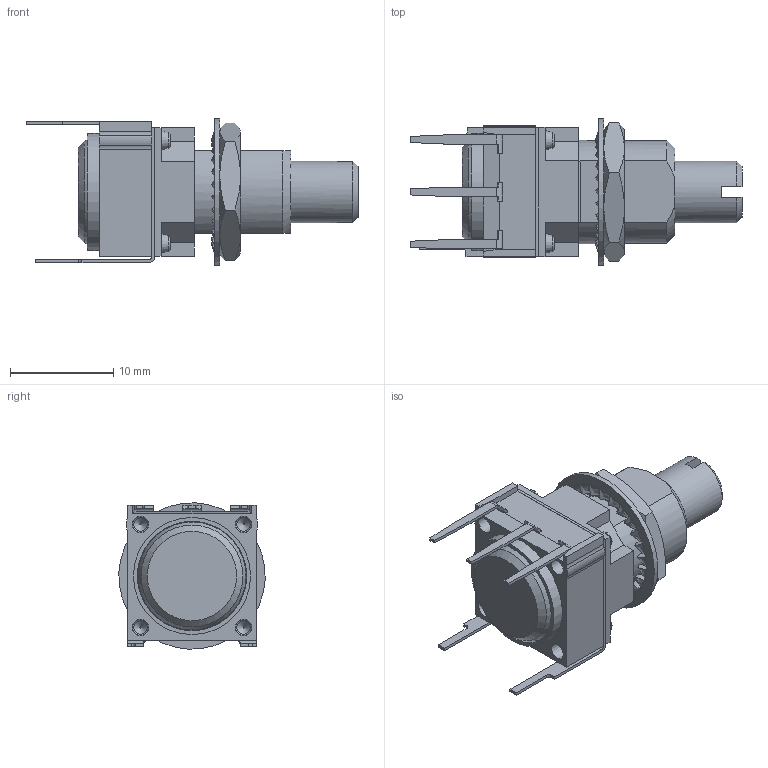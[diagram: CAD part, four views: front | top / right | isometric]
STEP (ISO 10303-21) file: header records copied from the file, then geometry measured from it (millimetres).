
FILE_DESCRIPTION(/* description */ ('P11S1V0FGSW00103MA'),/* implementation_level */ '2;1');
FILE_NAME(/* name */ 'P11S1V0FGSW00103MA ',/* time_stamp */ '2025-07-25T15:24:24+02:00',/* author */ ('N. Lapouge'),/* organization */ ('Vishay'),/* preprocessor_version */ 'ST-DEVELOPER v19.4',/* originating_system */ 'Solid Edge',/* authorisation */ 'Unknown');
FILE_SCHEMA (('AUTOMOTIVE_DESIGN {1 0 10303 214 3 1 1}'));
Length unit declared in the file: millimetre
Products named in the file (13): P11S1V0FGSW00103MA2; 0; 1; 2; 4; 5; 6; 7; 8; 3; 9; 10; 11
Assembly tree (12 placements, depth 4):
  P11S1V0FGSW00103MA2
    0
    1
    2
      4
      5
        6
        7
        8
    3
    9
    10
    11
Bounding box: 32.19 x 14.19 x 14.19 mm (x, y, z)
Volume: 1812.3 mm3; surface area: 3433 mm2
Topology: 10 solids, 10 shells, 733 faces, 2035 edges, 1340 vertices
Faces by surface type: plane 392, cylinder 167, bspline 108, cone 57, torus 9
Full cylindrical faces by diameter (mm): 1.3 x4, 1.5 x8, 1.55 x8, 3.4 x1, 3.97 x1, 4 x1, 4.1 x1, 5.25 x1, 5.6 x1, 6 x2, 6.4 x1, 7.42 x1, 7.44 x1, 8.4 x1, 9.188 x1, 9.65 x1, 10.6 x1, 10.8 x1, 11.35 x1, 14.2 x1
Entity records: 25598 total; most frequent: CARTESIAN_POINT 7144, ORIENTED_EDGE 3864, DIRECTION 3195, EDGE_CURVE 1932, VERTEX_POINT 1308, LINE 1065, VECTOR 1065, AXIS2_PLACEMENT_3D 1065
